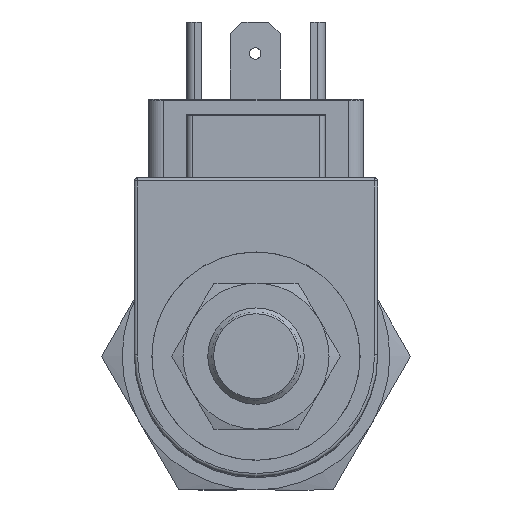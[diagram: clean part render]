
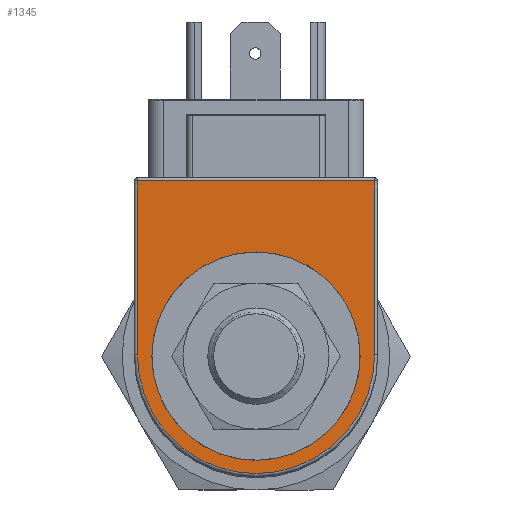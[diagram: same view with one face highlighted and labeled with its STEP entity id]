
A CAD part, left-side view. The second image highlights one B-rep face of the part: STEP entity #1345.
In plain terms, the highlighted planar face has unit normal (-1, 0, 0) as drawn and (0, 0, 1) by its records, which use the part's own axes.
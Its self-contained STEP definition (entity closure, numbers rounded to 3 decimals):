
#1345 = ADVANCED_FACE( '', ( #2702, #2703 ), #2704, .F. );
#2702 = FACE_OUTER_BOUND( '', #4103, .T. );
#2703 = FACE_BOUND( '', #4104, .T. );
#2704 = PLANE( '', #4105 );
#4103 = EDGE_LOOP( '', ( #6771, #6772, #6773, #6774 ) );
#4104 = EDGE_LOOP( '', ( #6775 ) );
#4105 = AXIS2_PLACEMENT_3D( '', #6776, #6777, #6778 );
#6771 = ORIENTED_EDGE( '', *, *, #8081, .T. );
#6772 = ORIENTED_EDGE( '', *, *, #7774, .T. );
#6773 = ORIENTED_EDGE( '', *, *, #8082, .T. );
#6774 = ORIENTED_EDGE( '', *, *, #8076, .T. );
#6775 = ORIENTED_EDGE( '', *, *, #7308, .T. );
#6776 = CARTESIAN_POINT( '', ( 0., -0.155, 45.06 ) );
#6777 = DIRECTION( '', ( 0., 0., -1. ) );
#6778 = DIRECTION( '', ( 0., -1., 0. ) );
#7308 = EDGE_CURVE( '', #8525, #8525, #8526, .T. );
#7774 = EDGE_CURVE( '', #8955, #9232, #9234, .T. );
#8076 = EDGE_CURVE( '', #9600, #8355, #9601, .T. );
#8081 = EDGE_CURVE( '', #8355, #8955, #9606, .T. );
#8082 = EDGE_CURVE( '', #9232, #9600, #9607, .T. );
#8355 = VERTEX_POINT( '', #10032 );
#8525 = VERTEX_POINT( '', #11042 );
#8526 = CIRCLE( '', #11043, 13.59 );
#8955 = VERTEX_POINT( '', #12034 );
#9232 = VERTEX_POINT( '', #12510 );
#9234 = LINE( '', #12512, #12513 );
#9600 = VERTEX_POINT( '', #13279 );
#9601 = LINE( '', #13280, #13281 );
#9606 = LINE( '', #13287, #13288 );
#9607 = CIRCLE( '', #13289, 15.475 );
#10032 = CARTESIAN_POINT( '', ( -15.475, -22.855, 45.06 ) );
#11042 = CARTESIAN_POINT( '', ( 0., -13.59, 45.06 ) );
#11043 = AXIS2_PLACEMENT_3D( '', #13653, #13654, #13655 );
#12034 = CARTESIAN_POINT( '', ( 15.475, -22.855, 45.06 ) );
#12510 = CARTESIAN_POINT( '', ( 15.475, -0.155, 45.06 ) );
#12512 = CARTESIAN_POINT( '', ( 15.475, -0.155, 45.06 ) );
#12513 = VECTOR( '', #14281, 1000. );
#13279 = CARTESIAN_POINT( '', ( -15.475, -0.155, 45.06 ) );
#13280 = CARTESIAN_POINT( '', ( -15.475, -0.155, 45.06 ) );
#13281 = VECTOR( '', #14574, 1000. );
#13287 = CARTESIAN_POINT( '', ( 0., -22.855, 45.06 ) );
#13288 = VECTOR( '', #14579, 1000. );
#13289 = AXIS2_PLACEMENT_3D( '', #14580, #14581, #14582 );
#13653 = CARTESIAN_POINT( '', ( 0., 0., 45.06 ) );
#13654 = DIRECTION( '', ( 0., 0., -1. ) );
#13655 = DIRECTION( '', ( 0., -1., 0. ) );
#14281 = DIRECTION( '', ( 0., 1., 0. ) );
#14574 = DIRECTION( '', ( 0., -1., 0. ) );
#14579 = DIRECTION( '', ( 1., 0., 0. ) );
#14580 = CARTESIAN_POINT( '', ( 0., -0.155, 45.06 ) );
#14581 = DIRECTION( '', ( 0., 0., 1. ) );
#14582 = DIRECTION( '', ( -1., 0., 0. ) );
